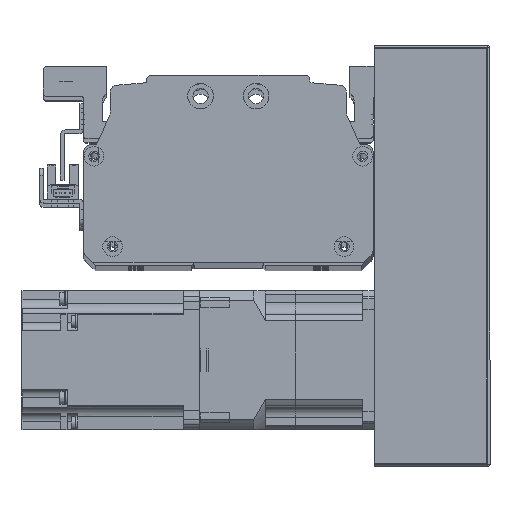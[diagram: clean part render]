
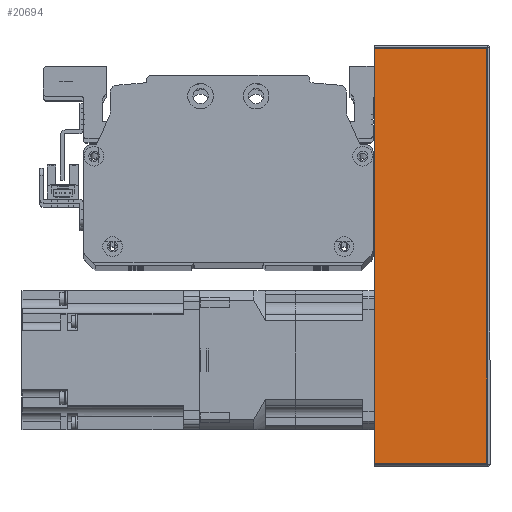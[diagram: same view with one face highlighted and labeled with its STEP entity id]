
A CAD part, top view. The second image highlights one B-rep face of the part: STEP entity #20694.
In plain terms, the highlighted planar face has unit normal (0, 0, 1) as drawn and (0, 1, 0) by its records, which use the part's own axes.
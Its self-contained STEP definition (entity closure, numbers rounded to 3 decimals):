
#568=PLANE('',#22725);
#1775=LINE('',#33711,#3399);
#1789=LINE('',#33756,#3413);
#1793=LINE('',#33778,#3417);
#1812=LINE('',#33841,#3436);
#3399=VECTOR('',#27398,10.);
#3413=VECTOR('',#27446,10.);
#3417=VECTOR('',#27480,10.);
#3436=VECTOR('',#27563,10.);
#5838=FACE_OUTER_BOUND('',#7318,.T.);
#7318=EDGE_LOOP('',(#17264,#17265,#17266,#17267));
#10190=VERTEX_POINT('',#33708);
#10191=VERTEX_POINT('',#33710);
#10204=VERTEX_POINT('',#33751);
#10205=VERTEX_POINT('',#33754);
#12643=EDGE_CURVE('',#10191,#10190,#1775,.T.);
#12667=EDGE_CURVE('',#10204,#10205,#1789,.T.);
#12679=EDGE_CURVE('',#10190,#10204,#1793,.T.);
#12710=EDGE_CURVE('',#10205,#10191,#1812,.T.);
#17264=ORIENTED_EDGE('',*,*,#12667,.T.);
#17265=ORIENTED_EDGE('',*,*,#12710,.T.);
#17266=ORIENTED_EDGE('',*,*,#12643,.T.);
#17267=ORIENTED_EDGE('',*,*,#12679,.T.);
#20694=ADVANCED_FACE('',(#5838),#568,.F.);
#22725=AXIS2_PLACEMENT_3D('',#33840,#27561,#27562);
#27398=DIRECTION('',(-1.,0.,0.));
#27446=DIRECTION('',(1.,0.,0.));
#27480=DIRECTION('',(0.,0.,1.));
#27561=DIRECTION('center_axis',(0.,-1.,0.));
#27562=DIRECTION('ref_axis',(-1.,0.,0.));
#27563=DIRECTION('',(0.,0.,-1.));
#33708=CARTESIAN_POINT('',(-90.,38.,-25.));
#33710=CARTESIAN_POINT('',(90.,38.,-25.));
#33711=CARTESIAN_POINT('',(-91.,38.,-25.));
#33751=CARTESIAN_POINT('',(-90.,38.,24.));
#33754=CARTESIAN_POINT('',(90.,38.,24.));
#33756=CARTESIAN_POINT('',(45.5,38.,24.));
#33778=CARTESIAN_POINT('',(-90.,38.,0.));
#33840=CARTESIAN_POINT('Origin',(91.,38.,0.));
#33841=CARTESIAN_POINT('',(90.,38.,0.));
